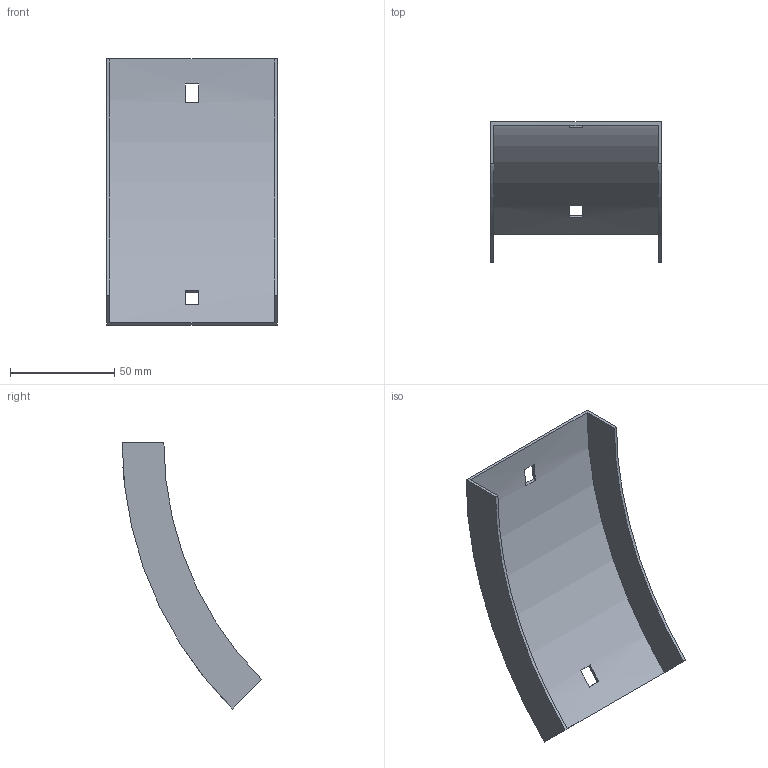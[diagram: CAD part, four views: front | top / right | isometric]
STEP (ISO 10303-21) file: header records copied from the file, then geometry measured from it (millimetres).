
FILE_DESCRIPTION (( 'STEP AP214' ), '1' );
FILE_NAME ('34N1C075.step', '2025-02-21T09:15:46', ( '' ), ( '' ), 'SwSTEP 2.0', 'SolidWorks 2023', '' );
FILE_SCHEMA (( 'AUTOMOTIVE_DESIGN' ));
Length unit declared in the file: millimetre
Products named in the file (1): 34N1C075
Bounding box: 82 x 67.01 x 127.63 mm (x, y, z)
Volume: 24587.6 mm3; surface area: 33613.9 mm2
Topology: 1 solids, 1 shells, 18 faces, 48 edges, 32 vertices
Faces by surface type: plane 14, cylinder 4
Entity records: 599 total; most frequent: DIRECTION 102, CARTESIAN_POINT 99, ORIENTED_EDGE 96, EDGE_CURVE 48, AXIS2_PLACEMENT_3D 35, VERTEX_POINT 32, VECTOR 32, LINE 32
